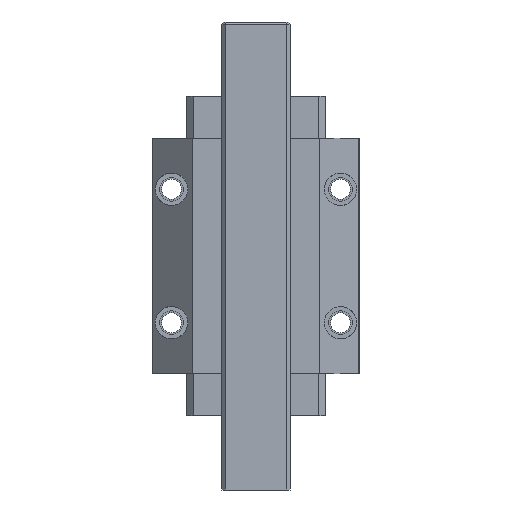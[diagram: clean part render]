
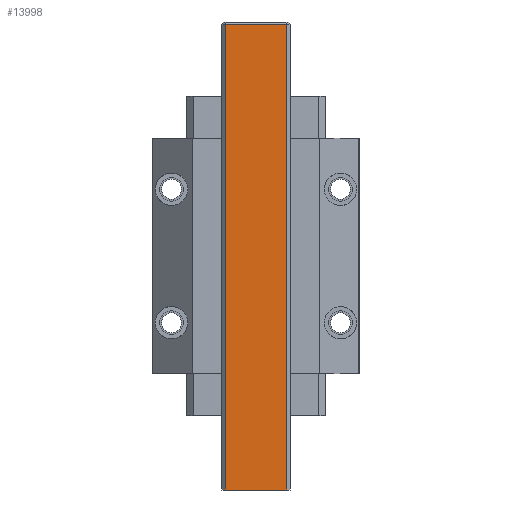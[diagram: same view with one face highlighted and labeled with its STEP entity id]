
A CAD part, front view. The second image highlights one B-rep face of the part: STEP entity #13998.
In plain terms, the highlighted planar face has unit normal (0, -1, 0).
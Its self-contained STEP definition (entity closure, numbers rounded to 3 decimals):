
#12959=DIRECTION('',(1.,0.,0.));
#12960=VECTOR('',#12959,20.6);
#12961=CARTESIAN_POINT('',(-10.3,-14.6,-78.95));
#12962=LINE('',#12961,#12960);
#13232=DIRECTION('',(1.,0.,0.));
#13233=VECTOR('',#13232,20.6);
#13234=CARTESIAN_POINT('',(-10.3,-14.6,78.084));
#13235=LINE('',#13234,#13233);
#13236=DIRECTION('',(0.,0.,1.));
#13237=VECTOR('',#13236,157.034);
#13238=CARTESIAN_POINT('',(-10.3,-14.6,-78.95));
#13239=LINE('',#13238,#13237);
#13244=DIRECTION('',(0.,0.,1.));
#13245=VECTOR('',#13244,157.034);
#13246=CARTESIAN_POINT('',(10.3,-14.6,-78.95));
#13247=LINE('',#13246,#13245);
#13430=CARTESIAN_POINT('',(-10.3,-14.6,-78.95));
#13431=VERTEX_POINT('',#13430);
#13432=CARTESIAN_POINT('',(10.3,-14.6,-78.95));
#13433=VERTEX_POINT('',#13432);
#13494=CARTESIAN_POINT('',(10.3,-14.6,78.084));
#13495=VERTEX_POINT('',#13494);
#13498=CARTESIAN_POINT('',(-10.3,-14.6,78.084));
#13499=VERTEX_POINT('',#13498);
#13986=CARTESIAN_POINT('',(-10.3,-14.6,-78.95));
#13987=DIRECTION('',(0.,-1.,0.));
#13988=DIRECTION('',(1.,0.,0.));
#13989=AXIS2_PLACEMENT_3D('',#13986,#13987,#13988);
#13990=PLANE('',#13989);
#13991=ORIENTED_EDGE('',*,*,#13977,.T.);
#13993=ORIENTED_EDGE('',*,*,#13992,.F.);
#13994=ORIENTED_EDGE('',*,*,#13579,.F.);
#13995=ORIENTED_EDGE('',*,*,#13952,.T.);
#13996=EDGE_LOOP('',(#13991,#13993,#13994,#13995));
#13997=FACE_OUTER_BOUND('',#13996,.F.);
#13579=EDGE_CURVE('',#13431,#13433,#12962,.T.);
#13952=EDGE_CURVE('',#13431,#13499,#13239,.T.);
#13977=EDGE_CURVE('',#13499,#13495,#13235,.T.);
#13992=EDGE_CURVE('',#13433,#13495,#13247,.T.);
#13998=ADVANCED_FACE('',(#13997),#13990,.T.);
